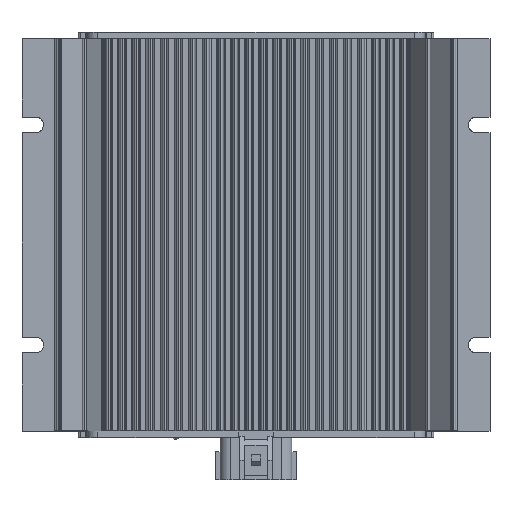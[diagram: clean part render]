
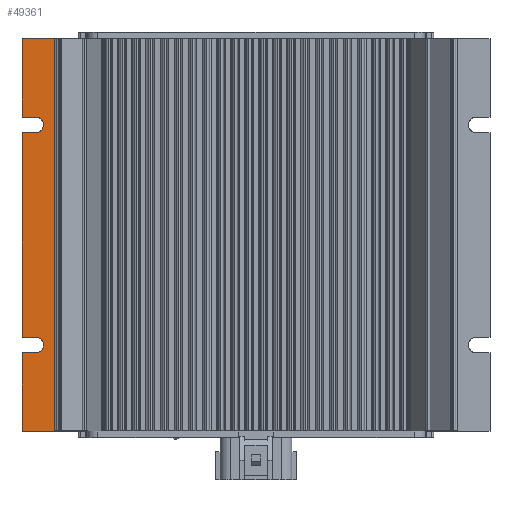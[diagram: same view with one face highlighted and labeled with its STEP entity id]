
A CAD part, top view. The second image highlights one B-rep face of the part: STEP entity #49361.
In plain terms, the highlighted planar face has unit normal (0, 0, 1).
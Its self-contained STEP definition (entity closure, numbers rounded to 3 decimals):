
#49222=CARTESIAN_POINT('Axis2P3D Location',(-107.95,-90.5,3.)) ;
#49228=CARTESIAN_POINT('Control Point',(-101.6,54.4,3.)) ;
#49229=CARTESIAN_POINT('Control Point',(-101.306,54.4,3.)) ;
#49230=CARTESIAN_POINT('Control Point',(-100.985,54.37,3.)) ;
#49231=CARTESIAN_POINT('Control Point',(-100.639,54.299,3.)) ;
#49232=CARTESIAN_POINT('Control Point',(-99.916,54.047,3.)) ;
#49233=CARTESIAN_POINT('Control Point',(-99.203,53.54,3.)) ;
#49234=CARTESIAN_POINT('Control Point',(-98.869,53.218,3.)) ;
#49235=CARTESIAN_POINT('Control Point',(-98.323,52.467,3.)) ;
#49236=CARTESIAN_POINT('Control Point',(-98.029,51.536,3.)) ;
#49237=CARTESIAN_POINT('Control Point',(-97.963,51.064,3.)) ;
#49238=CARTESIAN_POINT('Control Point',(-97.99,50.099,3.)) ;
#49239=CARTESIAN_POINT('Control Point',(-98.317,49.211,3.)) ;
#49240=CARTESIAN_POINT('Control Point',(-98.553,48.803,3.)) ;
#49241=CARTESIAN_POINT('Control Point',(-99.104,48.125,3.)) ;
#49242=CARTESIAN_POINT('Control Point',(-99.758,47.673,3.)) ;
#49243=CARTESIAN_POINT('Control Point',(-100.082,47.508,3.)) ;
#49244=CARTESIAN_POINT('Control Point',(-100.601,47.317,3.)) ;
#49245=CARTESIAN_POINT('Control Point',(-101.084,47.23,3.)) ;
#49246=CARTESIAN_POINT('Control Point',(-101.265,47.209,3.)) ;
#49247=CARTESIAN_POINT('Control Point',(-101.436,47.2,3.)) ;
#49248=CARTESIAN_POINT('Control Point',(-101.6,47.2,3.)) ;
#49249=CARTESIAN_POINT('Vertex',(-101.6,54.4,3.)) ;
#49251=CARTESIAN_POINT('Vertex',(-101.6,47.2,3.)) ;
#49254=CARTESIAN_POINT('Line Origine',(-104.775,47.2,3.)) ;
#49258=CARTESIAN_POINT('Vertex',(-107.95,47.2,3.)) ;
#49261=CARTESIAN_POINT('Line Origine',(-107.95,0.,3.)) ;
#49265=CARTESIAN_POINT('Vertex',(-107.95,-47.2,3.)) ;
#49268=CARTESIAN_POINT('Line Origine',(-104.775,-47.2,3.)) ;
#49272=CARTESIAN_POINT('Vertex',(-101.6,-47.2,3.)) ;
#49276=CARTESIAN_POINT('Control Point',(-101.6,-47.2,3.)) ;
#49277=CARTESIAN_POINT('Control Point',(-101.306,-47.2,3.)) ;
#49278=CARTESIAN_POINT('Control Point',(-100.985,-47.23,3.)) ;
#49279=CARTESIAN_POINT('Control Point',(-100.639,-47.301,3.)) ;
#49280=CARTESIAN_POINT('Control Point',(-99.916,-47.553,3.)) ;
#49281=CARTESIAN_POINT('Control Point',(-99.203,-48.06,3.)) ;
#49282=CARTESIAN_POINT('Control Point',(-98.869,-48.382,3.)) ;
#49283=CARTESIAN_POINT('Control Point',(-98.323,-49.133,3.)) ;
#49284=CARTESIAN_POINT('Control Point',(-98.029,-50.064,3.)) ;
#49285=CARTESIAN_POINT('Control Point',(-97.963,-50.536,3.)) ;
#49286=CARTESIAN_POINT('Control Point',(-97.99,-51.501,3.)) ;
#49287=CARTESIAN_POINT('Control Point',(-98.317,-52.389,3.)) ;
#49288=CARTESIAN_POINT('Control Point',(-98.553,-52.797,3.)) ;
#49289=CARTESIAN_POINT('Control Point',(-99.104,-53.475,3.)) ;
#49290=CARTESIAN_POINT('Control Point',(-99.758,-53.927,3.)) ;
#49291=CARTESIAN_POINT('Control Point',(-100.082,-54.092,3.)) ;
#49292=CARTESIAN_POINT('Control Point',(-100.601,-54.283,3.)) ;
#49293=CARTESIAN_POINT('Control Point',(-101.084,-54.37,3.)) ;
#49294=CARTESIAN_POINT('Control Point',(-101.265,-54.391,3.)) ;
#49295=CARTESIAN_POINT('Control Point',(-101.436,-54.4,3.)) ;
#49296=CARTESIAN_POINT('Control Point',(-101.6,-54.4,3.)) ;
#49297=CARTESIAN_POINT('Vertex',(-101.6,-54.4,3.)) ;
#49300=CARTESIAN_POINT('Line Origine',(-104.775,-54.4,3.)) ;
#49304=CARTESIAN_POINT('Vertex',(-107.95,-54.4,3.)) ;
#49307=CARTESIAN_POINT('Line Origine',(-107.95,-72.45,3.)) ;
#49311=CARTESIAN_POINT('Vertex',(-107.95,-90.5,3.)) ;
#49314=CARTESIAN_POINT('Line Origine',(-95.2,-90.5,3.)) ;
#49318=CARTESIAN_POINT('Vertex',(-82.45,-90.5,3.)) ;
#49321=CARTESIAN_POINT('Line Origine',(-82.45,0.,3.)) ;
#49325=CARTESIAN_POINT('Vertex',(-82.45,90.5,3.)) ;
#49328=CARTESIAN_POINT('Line Origine',(-95.2,90.5,3.)) ;
#49332=CARTESIAN_POINT('Vertex',(-107.95,90.5,3.)) ;
#49335=CARTESIAN_POINT('Line Origine',(-107.95,72.45,3.)) ;
#49339=CARTESIAN_POINT('Vertex',(-107.95,54.4,3.)) ;
#49342=CARTESIAN_POINT('Line Origine',(-104.775,54.4,3.)) ;
#49223=DIRECTION('Axis2P3D Direction',(0.,0.,1.)) ;
#49224=DIRECTION('Axis2P3D XDirection',(1.,0.,0.)) ;
#49255=DIRECTION('Vector Direction',(-1.,0.,0.)) ;
#49262=DIRECTION('Vector Direction',(0.,-1.,0.)) ;
#49269=DIRECTION('Vector Direction',(1.,0.,0.)) ;
#49301=DIRECTION('Vector Direction',(-1.,0.,0.)) ;
#49308=DIRECTION('Vector Direction',(0.,-1.,0.)) ;
#49315=DIRECTION('Vector Direction',(1.,0.,0.)) ;
#49322=DIRECTION('Vector Direction',(0.,1.,0.)) ;
#49329=DIRECTION('Vector Direction',(-1.,0.,0.)) ;
#49336=DIRECTION('Vector Direction',(0.,-1.,0.)) ;
#49343=DIRECTION('Vector Direction',(1.,0.,0.)) ;
#49225=AXIS2_PLACEMENT_3D('Plane Axis2P3D',#49222,#49223,#49224) ;
#49348=ORIENTED_EDGE('',*,*,#49253,.T.) ;
#49349=ORIENTED_EDGE('',*,*,#49260,.T.) ;
#49350=ORIENTED_EDGE('',*,*,#49267,.T.) ;
#49351=ORIENTED_EDGE('',*,*,#49274,.T.) ;
#49352=ORIENTED_EDGE('',*,*,#49299,.T.) ;
#49353=ORIENTED_EDGE('',*,*,#49306,.T.) ;
#49354=ORIENTED_EDGE('',*,*,#49313,.T.) ;
#49355=ORIENTED_EDGE('',*,*,#49320,.T.) ;
#49356=ORIENTED_EDGE('',*,*,#49327,.T.) ;
#49357=ORIENTED_EDGE('',*,*,#49334,.T.) ;
#49358=ORIENTED_EDGE('',*,*,#49341,.T.) ;
#49359=ORIENTED_EDGE('',*,*,#49346,.T.) ;
#49256=VECTOR('Line Direction',#49255,1.) ;
#49263=VECTOR('Line Direction',#49262,1.) ;
#49270=VECTOR('Line Direction',#49269,1.) ;
#49302=VECTOR('Line Direction',#49301,1.) ;
#49309=VECTOR('Line Direction',#49308,1.) ;
#49316=VECTOR('Line Direction',#49315,1.) ;
#49323=VECTOR('Line Direction',#49322,1.) ;
#49330=VECTOR('Line Direction',#49329,1.) ;
#49337=VECTOR('Line Direction',#49336,1.) ;
#49344=VECTOR('Line Direction',#49343,1.) ;
#49361=ADVANCED_FACE('Surface.757',(#49360),#49226,.T.) ;
#49227=B_SPLINE_CURVE_WITH_KNOTS('',5,(#49228,#49229,#49230,#49231,#49232,#49233,#49234,#49235,#49236,#49237,#49238,#49239,#49240,#49241,#49242,#49243,#49244,#49245,#49246,#49247,#49248),.UNSPECIFIED.,.F.,.U.,(6,3,3,3,3,3,6),(0.,4.646,9.24,13.448,17.797,21.886,24.472),.UNSPECIFIED.) ;
#49275=B_SPLINE_CURVE_WITH_KNOTS('',5,(#49276,#49277,#49278,#49279,#49280,#49281,#49282,#49283,#49284,#49285,#49286,#49287,#49288,#49289,#49290,#49291,#49292,#49293,#49294,#49295,#49296),.UNSPECIFIED.,.F.,.U.,(6,3,3,3,3,3,6),(0.,4.646,9.24,13.448,17.797,21.886,24.472),.UNSPECIFIED.) ;
#49253=EDGE_CURVE('',#49250,#49252,#49227,.T.) ;
#49260=EDGE_CURVE('',#49252,#49259,#49257,.T.) ;
#49267=EDGE_CURVE('',#49259,#49266,#49264,.T.) ;
#49274=EDGE_CURVE('',#49266,#49273,#49271,.T.) ;
#49299=EDGE_CURVE('',#49273,#49298,#49275,.T.) ;
#49306=EDGE_CURVE('',#49298,#49305,#49303,.T.) ;
#49313=EDGE_CURVE('',#49305,#49312,#49310,.T.) ;
#49320=EDGE_CURVE('',#49312,#49319,#49317,.T.) ;
#49327=EDGE_CURVE('',#49319,#49326,#49324,.T.) ;
#49334=EDGE_CURVE('',#49326,#49333,#49331,.T.) ;
#49341=EDGE_CURVE('',#49333,#49340,#49338,.T.) ;
#49346=EDGE_CURVE('',#49340,#49250,#49345,.T.) ;
#49347=EDGE_LOOP('',(#49348,#49349,#49350,#49351,#49352,#49353,#49354,#49355,#49356,#49357,#49358,#49359)) ;
#49360=FACE_OUTER_BOUND('',#49347,.T.) ;
#49257=LINE('Line',#49254,#49256) ;
#49264=LINE('Line',#49261,#49263) ;
#49271=LINE('Line',#49268,#49270) ;
#49303=LINE('Line',#49300,#49302) ;
#49310=LINE('Line',#49307,#49309) ;
#49317=LINE('Line',#49314,#49316) ;
#49324=LINE('Line',#49321,#49323) ;
#49331=LINE('Line',#49328,#49330) ;
#49338=LINE('Line',#49335,#49337) ;
#49345=LINE('Line',#49342,#49344) ;
#49226=PLANE('',#49225) ;
#49250=VERTEX_POINT('',#49249) ;
#49252=VERTEX_POINT('',#49251) ;
#49259=VERTEX_POINT('',#49258) ;
#49266=VERTEX_POINT('',#49265) ;
#49273=VERTEX_POINT('',#49272) ;
#49298=VERTEX_POINT('',#49297) ;
#49305=VERTEX_POINT('',#49304) ;
#49312=VERTEX_POINT('',#49311) ;
#49319=VERTEX_POINT('',#49318) ;
#49326=VERTEX_POINT('',#49325) ;
#49333=VERTEX_POINT('',#49332) ;
#49340=VERTEX_POINT('',#49339) ;
